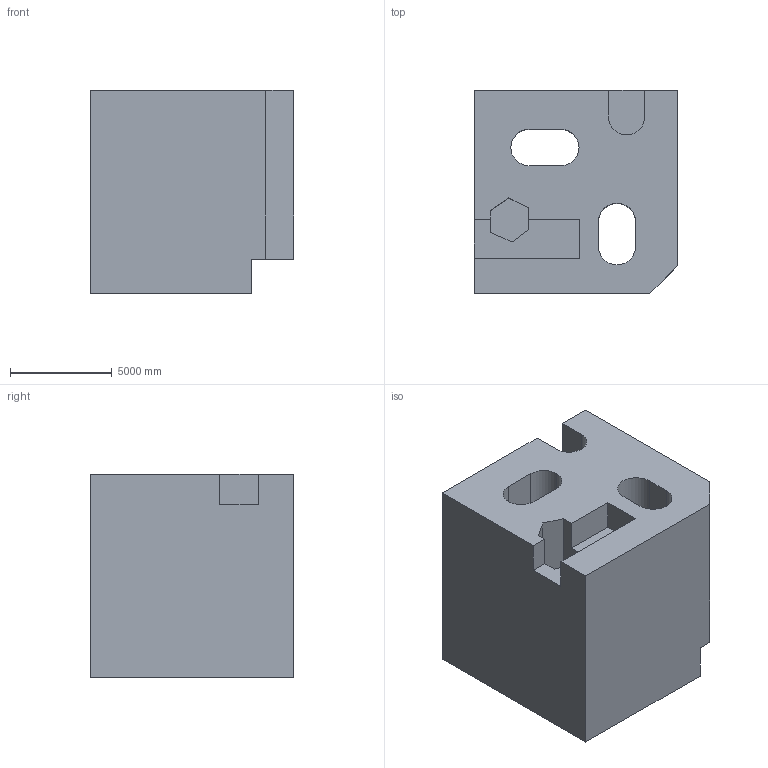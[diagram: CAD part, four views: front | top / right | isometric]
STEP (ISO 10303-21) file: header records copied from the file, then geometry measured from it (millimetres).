
FILE_DESCRIPTION (( 'STEP AP203' ), '1' );
FILE_NAME ('376.STEP', '2022-09-07T13:19:49', ( 'user' ), ( '' ), 'SwSTEP 2.0', 'SolidWorks 2021', '' );
FILE_SCHEMA (( 'CONFIG_CONTROL_DESIGN' ));
Length unit declared in the file: centimetre
Products named in the file (1): 376
Bounding box: 10000 x 10000 x 10000 mm (x, y, z)
Volume: 786148669528.4 mm3; surface area: 849288381.1 mm2
Topology: 1 solids, 1 shells, 45 faces, 129 edges, 86 vertices
Faces by surface type: plane 34, cylinder 11
Entity records: 1718 total; most frequent: CARTESIAN_POINT 430, ORIENTED_EDGE 258, DIRECTION 241, EDGE_CURVE 129, VECTOR 103, LINE 103, VERTEX_POINT 86, AXIS2_PLACEMENT_3D 69
